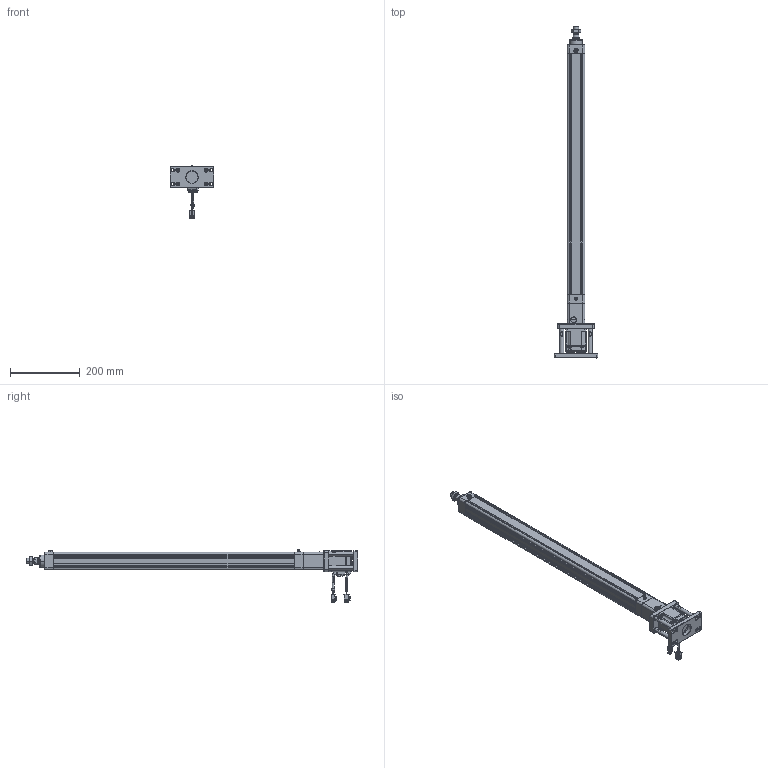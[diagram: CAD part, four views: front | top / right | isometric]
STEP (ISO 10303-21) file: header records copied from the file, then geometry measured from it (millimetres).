
FILE_DESCRIPTION((''),'2;1');
FILE_NAME('HE40-D-100_ASM','2020-04-18T',('ASUS20200'),(''),'CREO PARAMETRIC BY PTC INC, 2014190','CREO PARAMETRIC BY PTC INC, 2014190','');
FILE_SCHEMA(('CONFIG_CONTROL_DESIGN'));
Products named in the file (28): HE40-D-P-001-X1; HE40-D-P-002-X1; HE40-D-P-003-X1; 6200ZZ; HE40-D-009-X1; HE40-D-010-X1; _MHMF022L1A2; _CABLE_MOTOR_BOTTOM_03; _CABLE_MOTOR_TOP_03; _MOTOR_CONNECTOR_2; _CABLE_BRAKE_BOTTOM_03; _CABLE_BRAKE_TOP_03; _MHMF_CONNECTOR_9_PIN_A6; MHMF022L1A2M2_1_ASM; MHMF022L1A2M2_ASM; SLM-01; YZ-M6X1; JDB202820; SKT-13; JX5X5X20; HE40-FB-LG; F-HE40-FB; M6X16; HE40-D-P-005-X1; HE40-D-P-004-X1; HE40-D-P-008-X1; LGLM-M6-22; HE40-D-100_ASM
Assembly tree (40 placements, depth 4):
  HE40-D-100_ASM
    HE40-D-P-001-X1
    HE40-D-P-002-X1
    HE40-D-P-003-X1
    6200ZZ
    HE40-D-009-X1
    HE40-D-010-X1
    MHMF022L1A2M2_ASM
      MHMF022L1A2M2_1_ASM
        _MHMF022L1A2
        _CABLE_MOTOR_BOTTOM_03
        _CABLE_MOTOR_TOP_03
        _MOTOR_CONNECTOR_2
        _CABLE_BRAKE_BOTTOM_03
        _CABLE_BRAKE_TOP_03
        _MHMF_CONNECTOR_9_PIN_A6
    SLM-01
    YZ-M6X1
    JDB202820
    SKT-13
    JX5X5X20
    HE40-FB-LG  x4
    F-HE40-FB
    M6X16  x8
    HE40-D-P-005-X1
    HE40-D-P-004-X1
    HE40-D-P-008-X1
    LGLM-M6-22  x4
Bounding box: 125 x 955 x 152.7 mm (x, y, z)
Volume: 1350323.2 mm3; surface area: 526085 mm2
Topology: 38 solids, 71 shells, 2720 faces, 6499 edges, 4011 vertices
Faces by surface type: plane 1085, cylinder 815, cone 662, torus 118, sphere 36, bspline 4
Entity records: 71400 total; most frequent: CARTESIAN_POINT 13450, DIRECTION 12748, ORIENTED_EDGE 11382, EDGE_CURVE 5739, AXIS2_PLACEMENT_3D 4789, VERTEX_POINT 3574, VECTOR 3170, LINE 3170
